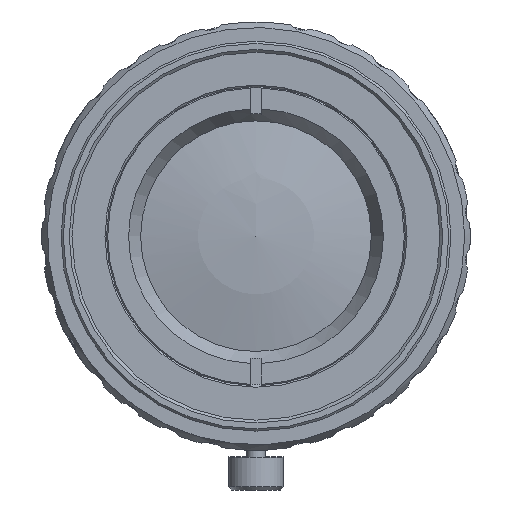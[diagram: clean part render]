
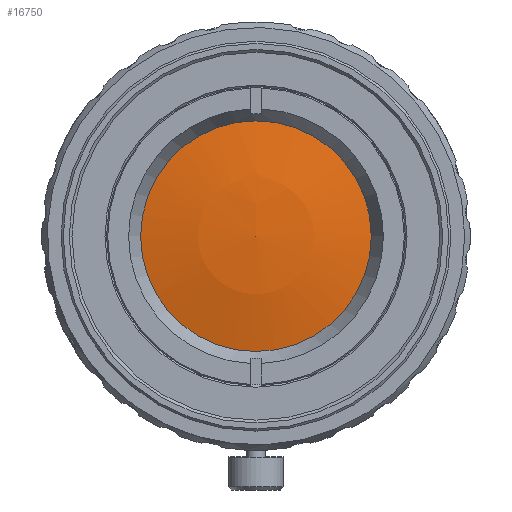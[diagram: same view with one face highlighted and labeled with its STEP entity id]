
A CAD part, front view. The second image highlights one B-rep face of the part: STEP entity #16750.
In plain terms, the highlighted spherical face has radius 47.363 mm.
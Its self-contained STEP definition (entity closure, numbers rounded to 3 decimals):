
#2310=SPHERICAL_SURFACE('',#17955,47.363);
#5023=ORIENTED_EDGE('',*,*,#6662,.T.);
#6662=EDGE_CURVE('',#7919,#7919,#8555,.F.);
#7919=VERTEX_POINT('',#25660);
#8555=CIRCLE('',#17840,10.5);
#9506=EDGE_LOOP('',(#5023));
#10538=FACE_BOUND('',#9506,.T.);
#16750=ADVANCED_FACE('',(#10538),#2310,.T.);
#17840=AXIS2_PLACEMENT_3D('',#25659,#20610,#20611);
#17955=AXIS2_PLACEMENT_3D('',#26218,#20902,#20903);
#20610=DIRECTION('',(0.,1.,0.));
#20611=DIRECTION('',(0.,0.,1.));
#20902=DIRECTION('',(0.,-1.,0.));
#20903=DIRECTION('',(0.,0.,1.));
#25659=CARTESIAN_POINT('',(0.,-82.616,0.));
#25660=CARTESIAN_POINT('',(0.,-82.616,10.5));
#26218=CARTESIAN_POINT('',(0.,-36.431,0.));
